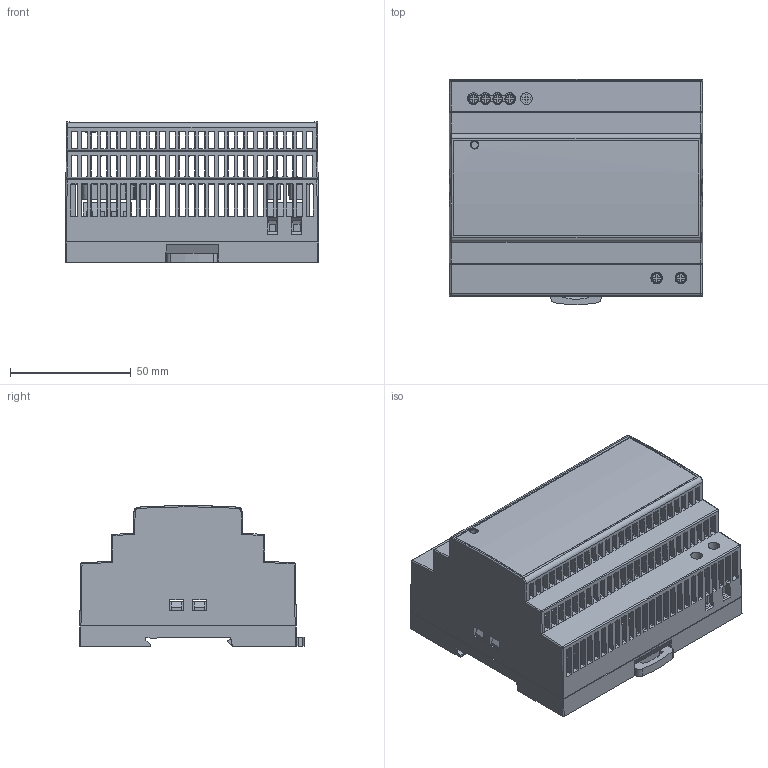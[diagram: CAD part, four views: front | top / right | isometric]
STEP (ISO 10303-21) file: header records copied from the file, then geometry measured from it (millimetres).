
FILE_DESCRIPTION( ('This file contains a STEP AP42 implementation' ,'as created by ZW3D STEP Interface translator.') ,'2;1' );
FILE_NAME( 'HDR-150.stp' ,'25 623.17 636', (''), ('ZWCAD Software Co.'), 'Version 1.0', 'ZW3D to STEP translator', '' );
FILE_SCHEMA(('AUTOMOTIVE_DESIGN { 1 0 10303 214 1 1 1 1 }'));
Length unit declared in the file: millimetre
Products named in the file (10): 0; HDR-150; PCB（装配2025.2.11）; VR_1; EU1_5-04-5_0-00(1); EU1_5-03-5_0-00(1); GW-DR150H; BOT; LATCH; TOP - 萵掛
Assembly tree (8 placements, depth 3):
  0
  HDR-150
    PCB（装配2025.2.11）
      VR_1
      EU1_5-04-5_0-00(1)
      EU1_5-03-5_0-00(1)
    GW-DR150H
      BOT
      LATCH
      TOP - 萵掛
Bounding box: 105 x 93.27 x 58.4 mm (x, y, z)
Volume: 71433 mm3; surface area: 87198.9 mm2
Topology: 10 solids, 13 shells, 2245 faces, 6493 edges, 4199 vertices
Faces by surface type: plane 1358, cylinder 754, cone 50, torus 42, bspline 29, sphere 12
Entity records: 78211 total; most frequent: CARTESIAN_POINT 18090, ORIENTED_EDGE 12984, DIRECTION 10388, EDGE_CURVE 6492, VECTOR 4690, LINE 4690, VERTEX_POINT 4199, AXIS2_PLACEMENT_3D 2849
